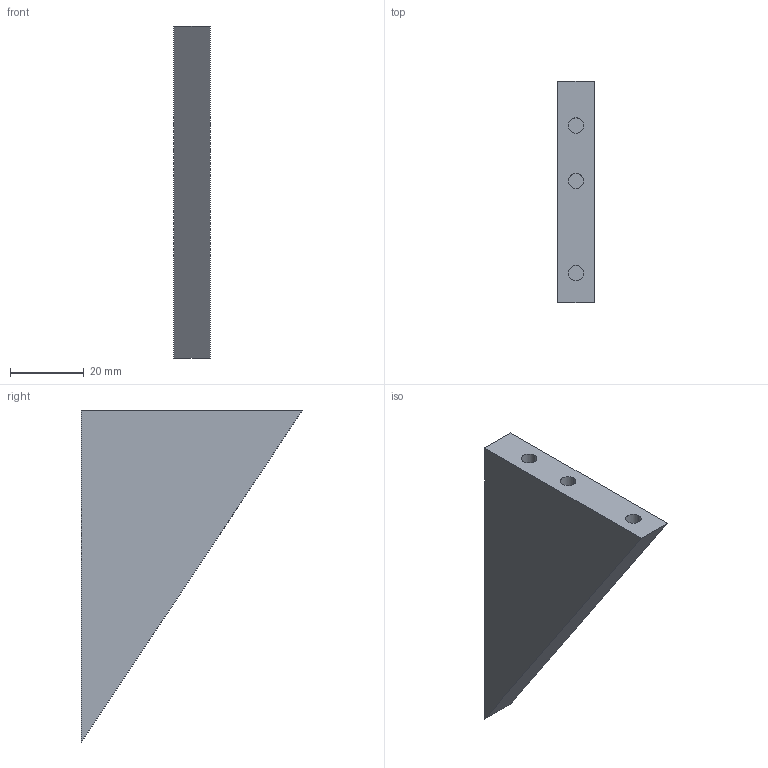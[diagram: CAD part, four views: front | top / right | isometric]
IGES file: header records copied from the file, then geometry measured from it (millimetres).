
Start section:  PTC IGES file: h90-k60m-sp.igs
Global section: file name: h90-k60m-sp.igs; native system: Pro/ENGINEER by Parametric Technology Corporation; preprocessor: 2008230; author: Owner; organization: Unknown; date: 20121211.134044; units: millimetre
Bounding box: 10 x 60 x 90 mm (x, y, z)
Surface area: 8615 mm2 (no closed solid volume)
Topology: 0 solids, 0 shells, 23 faces, 90 edges, 90 vertices
Faces by surface type: revolution 12, bspline 11
